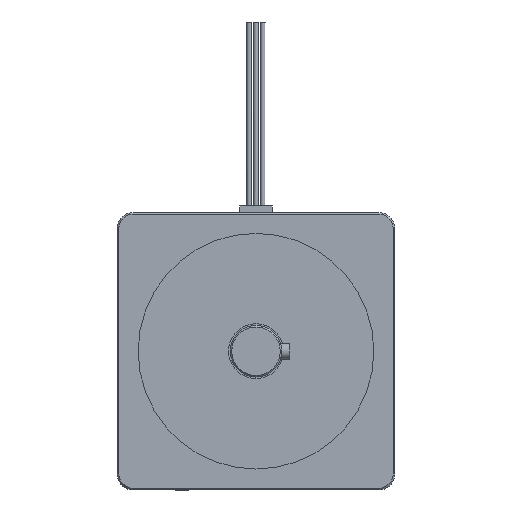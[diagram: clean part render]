
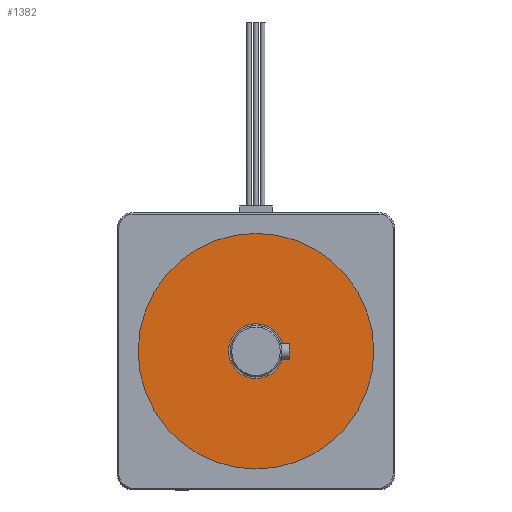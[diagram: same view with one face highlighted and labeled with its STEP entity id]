
A CAD part, front view. The second image highlights one B-rep face of the part: STEP entity #1382.
In plain terms, the highlighted planar face has unit normal (0, -1, 0).
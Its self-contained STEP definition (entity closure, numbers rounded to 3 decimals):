
#889=FACE_BOUND('',#2032,.T.);
#890=FACE_BOUND('',#2033,.T.);
#1170=CIRCLE('',#5465,36.5);
#1171=CIRCLE('',#5467,8.5);
#1382=ADVANCED_FACE('',(#889,#890),#1548,.T.);
#1548=PLANE('',#5470);
#2032=EDGE_LOOP('',(#3115));
#2033=EDGE_LOOP('',(#3116));
#3115=ORIENTED_EDGE('',*,*,#4275,.T.);
#3116=ORIENTED_EDGE('',*,*,#4276,.F.);
#3706=VERTEX_POINT('',#8379);
#3707=VERTEX_POINT('',#8382);
#4275=EDGE_CURVE('',#3706,#3706,#1170,.T.);
#4276=EDGE_CURVE('',#3707,#3707,#1171,.T.);
#5465=AXIS2_PLACEMENT_3D('',#8378,#6665,#6666);
#5467=AXIS2_PLACEMENT_3D('',#8381,#6669,#6670);
#5470=AXIS2_PLACEMENT_3D('',#8386,#6675,#6676);
#6665=DIRECTION('',(0.,-1.,0.));
#6666=DIRECTION('',(1.,0.,0.));
#6669=DIRECTION('',(0.,-1.,0.));
#6670=DIRECTION('',(1.,0.,0.));
#6675=DIRECTION('',(0.,-1.,0.));
#6676=DIRECTION('',(0.,0.,-1.));
#8378=CARTESIAN_POINT('',(0.,-88.9,0.));
#8379=CARTESIAN_POINT('',(36.5,-88.9,0.));
#8381=CARTESIAN_POINT('',(0.,-88.9,0.));
#8382=CARTESIAN_POINT('',(8.5,-88.9,0.));
#8386=CARTESIAN_POINT('',(0.,-88.9,0.));
